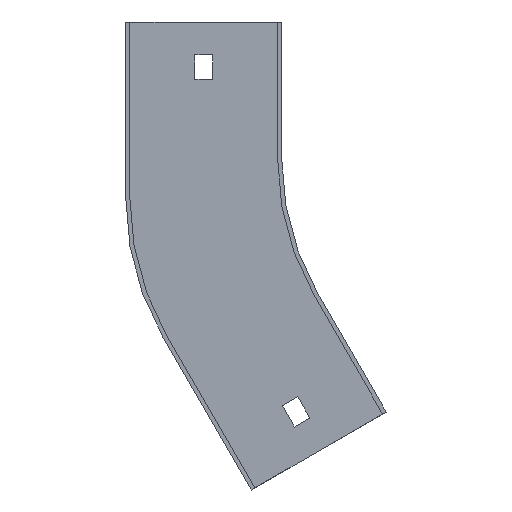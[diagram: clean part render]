
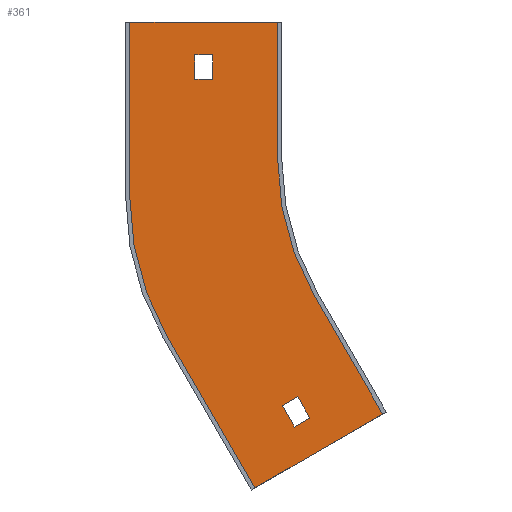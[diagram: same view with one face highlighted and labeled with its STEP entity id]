
A CAD part, front view. The second image highlights one B-rep face of the part: STEP entity #361.
In plain terms, the highlighted planar face has unit normal (0, -1, 0).
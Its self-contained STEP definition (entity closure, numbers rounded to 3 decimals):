
#6 = VERTEX_POINT ( 'NONE', #258 ) ;
#12 = CARTESIAN_POINT ( 'NONE',  ( 14.5, -1.5, -25.115 ) ) ;
#22 = ORIENTED_EDGE ( 'NONE', *, *, #841, .F. ) ;
#27 = ORIENTED_EDGE ( 'NONE', *, *, #514, .T. ) ;
#29 = LINE ( 'NONE', #777, #158 ) ;
#40 = CARTESIAN_POINT ( 'NONE',  ( 19., -1.5, -32.909 ) ) ;
#41 = CARTESIAN_POINT ( 'NONE',  ( -112.8, -1.5, -65.125 ) ) ;
#42 = VERTEX_POINT ( 'NONE', #755 ) ;
#48 = VECTOR ( 'NONE', #441, 1000. ) ;
#54 = VERTEX_POINT ( 'NONE', #489 ) ;
#56 = VERTEX_POINT ( 'NONE', #819 ) ;
#75 = VECTOR ( 'NONE', #245, 1000. ) ;
#97 = CARTESIAN_POINT ( 'NONE',  ( -88.171, -1.5, -94.784 ) ) ;
#113 = LINE ( 'NONE', #787, #48 ) ;
#125 = EDGE_CURVE ( 'NONE', #481, #42, #345, .T. ) ;
#127 = EDGE_CURVE ( 'NONE', #296, #56, #616, .T. ) ;
#130 = VERTEX_POINT ( 'NONE', #148 ) ;
#131 = EDGE_LOOP ( 'NONE', ( #209, #273, #534, #862, #798, #407, #271, #579 ) ) ;
#136 = ORIENTED_EDGE ( 'NONE', *, *, #776, .T. ) ;
#137 = VERTEX_POINT ( 'NONE', #351 ) ;
#140 = EDGE_CURVE ( 'NONE', #352, #688, #548, .T. ) ;
#142 = EDGE_CURVE ( 'NONE', #137, #741, #691, .T. ) ;
#148 = CARTESIAN_POINT ( 'NONE',  ( -86.603, -1.5, -50. ) ) ;
#152 = CARTESIAN_POINT ( 'NONE',  ( 0., -1.5, 38. ) ) ;
#158 = VECTOR ( 'NONE', #177, 1000. ) ;
#163 = CARTESIAN_POINT ( 'NONE',  ( -107.171, -1.5, -61.875 ) ) ;
#175 = VECTOR ( 'NONE', #243, 1000. ) ;
#177 = DIRECTION ( 'NONE',  ( -1., 0., 0. ) ) ;
#178 = EDGE_CURVE ( 'NONE', #42, #739, #785, .T. ) ;
#179 = CARTESIAN_POINT ( 'NONE',  ( -154., -1.5, -14.469 ) ) ;
#194 = VERTEX_POINT ( 'NONE', #835 ) ;
#209 = ORIENTED_EDGE ( 'NONE', *, *, #178, .F. ) ;
#211 = EDGE_CURVE ( 'NONE', #739, #756, #655, .T. ) ;
#215 = DIRECTION ( 'NONE',  ( 0., 1., 0. ) ) ;
#231 = CARTESIAN_POINT ( 'NONE',  ( -100., -1.5, 0. ) ) ;
#240 = CARTESIAN_POINT ( 'NONE',  ( -100., -1.5, 50. ) ) ;
#243 = DIRECTION ( 'NONE',  ( 0., 0., -1. ) ) ;
#244 = CARTESIAN_POINT ( 'NONE',  ( -100., -1.5, 50. ) ) ;
#245 = DIRECTION ( 'NONE',  ( 0., 0., 1. ) ) ;
#248 = LINE ( 'NONE', #856, #75 ) ;
#252 = CIRCLE ( 'NONE', #738, 100. ) ;
#256 = CARTESIAN_POINT ( 'NONE',  ( -130.25, -1.5, 29. ) ) ;
#257 = CARTESIAN_POINT ( 'NONE',  ( 0., -1.5, 0. ) ) ;
#258 = CARTESIAN_POINT ( 'NONE',  ( -123.75, -1.5, 29. ) ) ;
#271 = ORIENTED_EDGE ( 'NONE', *, *, #524, .F. ) ;
#273 = ORIENTED_EDGE ( 'NONE', *, *, #125, .F. ) ;
#274 = CARTESIAN_POINT ( 'NONE',  ( -108.368, -1.5, -120.301 ) ) ;
#292 = EDGE_CURVE ( 'NONE', #54, #194, #528, .T. ) ;
#296 = VERTEX_POINT ( 'NONE', #740 ) ;
#309 = CARTESIAN_POINT ( 'NONE',  ( 0., -1.5, 0. ) ) ;
#316 = LINE ( 'NONE', #41, #385 ) ;
#322 = DIRECTION ( 'NONE',  ( -0.866, 0., -0.5 ) ) ;
#326 = EDGE_CURVE ( 'NONE', #130, #516, #789, .T. ) ;
#335 = EDGE_CURVE ( 'NONE', #516, #54, #523, .T. ) ;
#345 = LINE ( 'NONE', #761, #805 ) ;
#351 = CARTESIAN_POINT ( 'NONE',  ( -93.8, -1.5, -98.034 ) ) ;
#352 = VERTEX_POINT ( 'NONE', #802 ) ;
#361 = ADVANCED_FACE ( 'NONE', ( #796, #388, #854 ), #470, .T. ) ;
#380 = DIRECTION ( 'NONE',  ( 0.866, 0., 0.5 ) ) ;
#385 = VECTOR ( 'NONE', #573, 1000. ) ;
#386 = EDGE_CURVE ( 'NONE', #194, #481, #754, .T. ) ;
#388 = FACE_OUTER_BOUND ( 'NONE', #131, .T. ) ;
#392 = DIRECTION ( 'NONE',  ( 0., -1., 0. ) ) ;
#399 = DIRECTION ( 'NONE',  ( -0.5, 0., 0.866 ) ) ;
#401 = ORIENTED_EDGE ( 'NONE', *, *, #142, .F. ) ;
#405 = CARTESIAN_POINT ( 'NONE',  ( -86.603, -1.5, -50. ) ) ;
#407 = ORIENTED_EDGE ( 'NONE', *, *, #326, .F. ) ;
#417 = ORIENTED_EDGE ( 'NONE', *, *, #488, .T. ) ;
#419 = DIRECTION ( 'NONE',  ( 1., 0., 0. ) ) ;
#421 = ORIENTED_EDGE ( 'NONE', *, *, #127, .F. ) ;
#427 = VECTOR ( 'NONE', #399, 1000. ) ;
#432 = CARTESIAN_POINT ( 'NONE',  ( -155.5, -1.5, 50. ) ) ;
#441 = DIRECTION ( 'NONE',  ( 0., 0., -1. ) ) ;
#451 = DIRECTION ( 'NONE',  ( 0.5, 0., -0.866 ) ) ;
#455 = AXIS2_PLACEMENT_3D ( 'NONE', #257, #392, #731 ) ;
#462 = CARTESIAN_POINT ( 'NONE',  ( -60.304, -1.5, -92.551 ) ) ;
#469 = VECTOR ( 'NONE', #832, 1000. ) ;
#470 = PLANE ( 'NONE',  #455 ) ;
#471 = VECTOR ( 'NONE', #419, 1000. ) ;
#480 = DIRECTION ( 'NONE',  ( -0.866, 0., -0.5 ) ) ;
#481 = VERTEX_POINT ( 'NONE', #179 ) ;
#488 = EDGE_CURVE ( 'NONE', #688, #6, #113, .T. ) ;
#489 = CARTESIAN_POINT ( 'NONE',  ( -108.368, -1.5, -120.301 ) ) ;
#510 = DIRECTION ( 'NONE',  ( 0., 0., -1. ) ) ;
#514 = EDGE_CURVE ( 'NONE', #858, #352, #248, .T. ) ;
#516 = VERTEX_POINT ( 'NONE', #791 ) ;
#522 = VECTOR ( 'NONE', #849, 1000. ) ;
#523 = LINE ( 'NONE', #462, #831 ) ;
#524 = EDGE_CURVE ( 'NONE', #756, #130, #252, .T. ) ;
#528 = LINE ( 'NONE', #274, #427 ) ;
#534 = ORIENTED_EDGE ( 'NONE', *, *, #386, .F. ) ;
#548 = LINE ( 'NONE', #152, #471 ) ;
#573 = DIRECTION ( 'NONE',  ( 0.5, 0., -0.866 ) ) ;
#579 = ORIENTED_EDGE ( 'NONE', *, *, #211, .F. ) ;
#582 = DIRECTION ( 'NONE',  ( 0., -1., 0. ) ) ;
#596 = AXIS2_PLACEMENT_3D ( 'NONE', #814, #215, #827 ) ;
#616 = LINE ( 'NONE', #12, #658 ) ;
#621 = CARTESIAN_POINT ( 'NONE',  ( -123.75, -1.5, 38. ) ) ;
#655 = LINE ( 'NONE', #240, #175 ) ;
#658 = VECTOR ( 'NONE', #480, 1000. ) ;
#675 = ORIENTED_EDGE ( 'NONE', *, *, #140, .T. ) ;
#676 = EDGE_LOOP ( 'NONE', ( #675, #417, #136, #27 ) ) ;
#688 = VERTEX_POINT ( 'NONE', #621 ) ;
#691 = LINE ( 'NONE', #40, #699 ) ;
#698 = DIRECTION ( 'NONE',  ( 0., 0., 1. ) ) ;
#699 = VECTOR ( 'NONE', #380, 1000. ) ;
#725 = VECTOR ( 'NONE', #451, 1000. ) ;
#731 = DIRECTION ( 'NONE',  ( 0., 0., -1. ) ) ;
#733 = EDGE_LOOP ( 'NONE', ( #22, #401, #816, #421 ) ) ;
#738 = AXIS2_PLACEMENT_3D ( 'NONE', #309, #582, #510 ) ;
#739 = VERTEX_POINT ( 'NONE', #244 ) ;
#740 = CARTESIAN_POINT ( 'NONE',  ( -92.671, -1.5, -86.99 ) ) ;
#741 = VERTEX_POINT ( 'NONE', #97 ) ;
#754 = CIRCLE ( 'NONE', #596, 100. ) ;
#755 = CARTESIAN_POINT ( 'NONE',  ( -154., -1.5, 50. ) ) ;
#756 = VERTEX_POINT ( 'NONE', #231 ) ;
#761 = CARTESIAN_POINT ( 'NONE',  ( -154., -1.5, -14.469 ) ) ;
#776 = EDGE_CURVE ( 'NONE', #6, #858, #29, .T. ) ;
#777 = CARTESIAN_POINT ( 'NONE',  ( 0., -1.5, 29. ) ) ;
#785 = LINE ( 'NONE', #432, #522 ) ;
#787 = CARTESIAN_POINT ( 'NONE',  ( -123.75, -1.5, 0. ) ) ;
#789 = LINE ( 'NONE', #405, #725 ) ;
#791 = CARTESIAN_POINT ( 'NONE',  ( -61.603, -1.5, -93.301 ) ) ;
#796 = FACE_BOUND ( 'NONE', #733, .T. ) ;
#798 = ORIENTED_EDGE ( 'NONE', *, *, #335, .F. ) ;
#802 = CARTESIAN_POINT ( 'NONE',  ( -130.25, -1.5, 38. ) ) ;
#805 = VECTOR ( 'NONE', #698, 1000. ) ;
#814 = CARTESIAN_POINT ( 'NONE',  ( -54., -1.5, -14.469 ) ) ;
#815 = EDGE_CURVE ( 'NONE', #56, #137, #316, .T. ) ;
#816 = ORIENTED_EDGE ( 'NONE', *, *, #815, .F. ) ;
#819 = CARTESIAN_POINT ( 'NONE',  ( -98.3, -1.5, -90.24 ) ) ;
#824 = LINE ( 'NONE', #163, #469 ) ;
#827 = DIRECTION ( 'NONE',  ( 0., 0., -1. ) ) ;
#831 = VECTOR ( 'NONE', #322, 1000. ) ;
#832 = DIRECTION ( 'NONE',  ( -0.5, 0., 0.866 ) ) ;
#835 = CARTESIAN_POINT ( 'NONE',  ( -140.603, -1.5, -64.469 ) ) ;
#841 = EDGE_CURVE ( 'NONE', #741, #296, #824, .T. ) ;
#849 = DIRECTION ( 'NONE',  ( 1., 0., 0. ) ) ;
#854 = FACE_BOUND ( 'NONE', #676, .T. ) ;
#856 = CARTESIAN_POINT ( 'NONE',  ( -130.25, -1.5, 0. ) ) ;
#858 = VERTEX_POINT ( 'NONE', #256 ) ;
#862 = ORIENTED_EDGE ( 'NONE', *, *, #292, .F. ) ;
